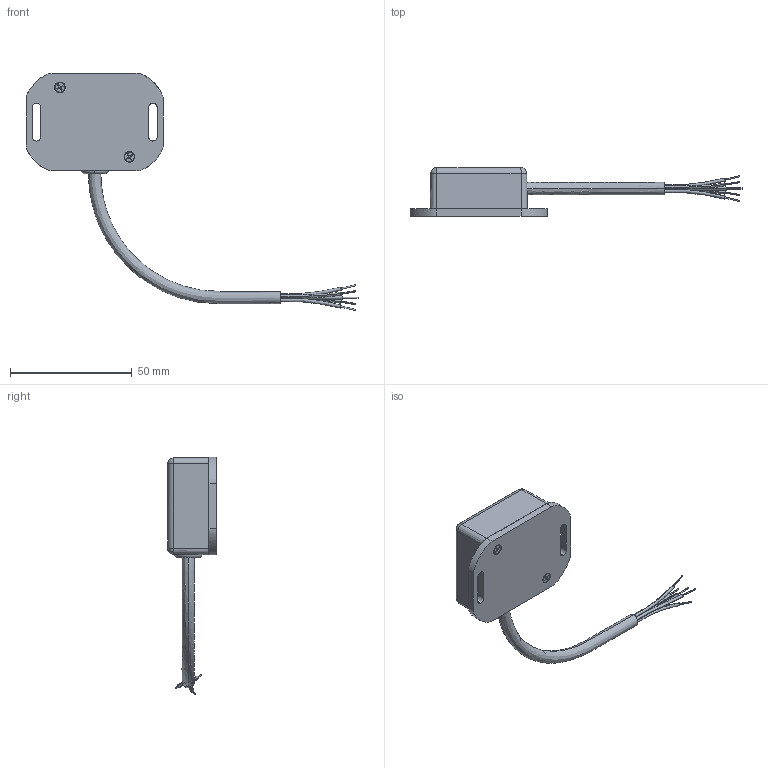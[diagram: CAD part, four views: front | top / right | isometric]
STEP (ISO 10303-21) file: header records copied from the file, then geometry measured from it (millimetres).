
FILE_DESCRIPTION (( 'STEP AP214' ), '1' );
FILE_NAME ('Assem1.STEP', '2022-08-17T16:53:30', ( '' ), ( '' ), 'SwSTEP 2.0', 'SolidWorks 2022', '' );
FILE_SCHEMA (( 'AUTOMOTIVE_DESIGN' ));
Length unit declared in the file: inch
Products named in the file (3): Phillips Flat Head Thread-Cutting Screw_90086A663; Assem1; 0729-17XX-XX
Assembly tree (3 placements, depth 2):
  Assem1
    0729-17XX-XX
    Phillips Flat Head Thread-Cutting Screw_90086A663  x2
Bounding box: 136.1 x 20 x 97.3 mm (x, y, z)
Volume: 34916.9 mm3; surface area: 13168.4 mm2
Topology: 12 solids, 12 shells, 297 faces, 767 edges, 494 vertices
Faces by surface type: plane 98, cylinder 83, bspline 62, cone 50, torus 4
Entity records: 16884 total; most frequent: CARTESIAN_POINT 12295, ORIENTED_EDGE 972, DIRECTION 714, EDGE_CURVE 486, VERTEX_POINT 315, AXIS2_PLACEMENT_3D 279, EDGE_LOOP 219, ADVANCED_FACE 200
